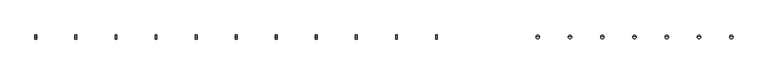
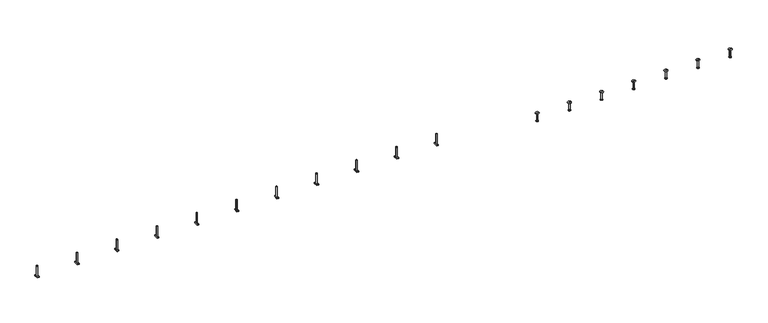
"""IFC4 building model written with IfcOpenShell, lengths in millimetres: fastener geometry, JTA-K JORDAHL® AnchorChannels : JTA-K L=6000 mm."""

from ifc_helpers import new_model, si_unit, frame, origin, place, context, project, spatial, polyline, circle_curve, source, transform, mapped, element, save
from ifc_brep_helpers import plane_surface, cylinder_surface, revolved_surface, advanced_brep


def fastener_ee6d43ff(model_context):
    return source(origin(), model_context, "Body", "AdvancedBrep", [
        advanced_brep(
        [(3468.8421053, -16.0, -3.0), (3468.8421053, -16.0, -11.0), (3468.8421053, 16.0, -11.0), (3468.8421053, 16.0, -3.0), (3454.8421053, -16.0, -3.0), (3454.8421053, 16.0, -3.0), (3454.8421053, 16.0, -11.0), (3454.8421053, -16.0, -11.0), (3466.8421053, 0.0, -3.0), (3456.8421053, 0.0, -3.0), (3456.8421053, 0.0, 77.0), (3466.8421053, 0.0, 77.0)],
        [
            (0, 1),
            (1, 2),
            (2, 3),
            (3, 0),
            (4, 5),
            (5, 6),
            (6, 7),
            (7, 4),
            (3, 5),
            (4, 0),
            (8, 9, circle_curve(frame((3461.8421053, 0.0, -3.0), z_axis=(0.0, 0.0, -1.0), x_axis=(1.0, 0.0, 0.0)), 5.0)),
            (9, 8, circle_curve(frame((3461.8421053, 0.0, -3.0), z_axis=(0.0, 0.0, -1.0), x_axis=(1.0, 0.0, 0.0)), 5.0)),
            (2, 6),
            (1, 7),
            (10, 11, circle_curve(frame((3461.8421053, 0.0, 77.0), z_axis=(0.0, 0.0, 1.0), x_axis=(1.0, 0.0, 0.0)), 5.0)),
            (11, 10, circle_curve(frame((3461.8421053, 0.0, 77.0), z_axis=(0.0, 0.0, 1.0), x_axis=(1.0, 0.0, 0.0)), 5.0)),
            (11, 8),
            (9, 10),
        ],
        [
            plane_surface(frame((3468.8421053, 16.0, -3.0), z_axis=(1.0, 0.0, 0.0), x_axis=(0.0, 1.0, 0.0))),
            plane_surface(frame((3454.8421053, 16.0, -3.0), z_axis=(-1.0, 0.0, 0.0), x_axis=(0.0, -1.0, 0.0))),
            plane_surface(frame((3468.8421053, -16.0, -3.0), z_axis=(0.0, 0.0, 1.0), x_axis=(-1.0, 0.0, 0.0))),
            plane_surface(frame((3468.8421053, 16.0, -3.0), z_axis=(0.0, 1.0, 0.0), x_axis=(-1.0, 0.0, 0.0))),
            plane_surface(frame((3468.8421053, 16.0, -11.0), z_axis=(0.0, 0.0, -1.0), x_axis=(-1.0, 0.0, 0.0))),
            plane_surface(frame((3468.8421053, -16.0, -11.0), z_axis=(0.0, -1.0, 0.0), x_axis=(-1.0, 0.0, 0.0))),
            plane_surface(frame((3466.8421053, 0.0, 77.0), z_axis=(0.0, 0.0, 1.0), x_axis=(0.0, -1.0, 0.0))),
            cylinder_surface(frame((3461.8421053, 0.0, -3.0), z_axis=(0.0, 0.0, 1.0), x_axis=(1.0, 0.0, 0.0)), 5.0),
        ],
        [
            (0, [[1, 2, 3, 4]]),
            (1, [[5, 6, 7, 8]]),
            (2, [[9, -5, 10, -4], [11, 12]]),
            (3, [[13, -6, -9, -3]]),
            (4, [[14, -7, -13, -2]]),
            (5, [[-10, -8, -14, -1]]),
            (6, [[15, 16]]),
            (7, [[17, -12, 18, -16]]),
            (7, [[-18, -11, -17, -15]]),
        ],
    ),
        advanced_brep(
        [(3160.9473684, -16.0, -3.0), (3160.9473684, -16.0, -11.0), (3160.9473684, 16.0, -11.0), (3160.9473684, 16.0, -3.0), (3146.9473684, -16.0, -3.0), (3146.9473684, 16.0, -3.0), (3146.9473684, 16.0, -11.0), (3146.9473684, -16.0, -11.0), (3158.9473684, 0.0, -3.0), (3148.9473684, 0.0, -3.0), (3148.9473684, 0.0, 77.0), (3158.9473684, 0.0, 77.0)],
        [
            (0, 1),
            (1, 2),
            (2, 3),
            (3, 0),
            (4, 5),
            (5, 6),
            (6, 7),
            (7, 4),
            (3, 5),
            (4, 0),
            (8, 9, circle_curve(frame((3153.9473684, 0.0, -3.0), z_axis=(0.0, 0.0, -1.0), x_axis=(1.0, 0.0, 0.0)), 5.0)),
            (9, 8, circle_curve(frame((3153.9473684, 0.0, -3.0), z_axis=(0.0, 0.0, -1.0), x_axis=(1.0, 0.0, 0.0)), 5.0)),
            (2, 6),
            (1, 7),
            (10, 11, circle_curve(frame((3153.9473684, 0.0, 77.0), z_axis=(0.0, 0.0, 1.0), x_axis=(1.0, 0.0, 0.0)), 5.0)),
            (11, 10, circle_curve(frame((3153.9473684, 0.0, 77.0), z_axis=(0.0, 0.0, 1.0), x_axis=(1.0, 0.0, 0.0)), 5.0)),
            (11, 8),
            (9, 10),
        ],
        [
            plane_surface(frame((3160.9473684, 16.0, -3.0), z_axis=(1.0, 0.0, 0.0), x_axis=(0.0, 1.0, 0.0))),
            plane_surface(frame((3146.9473684, 16.0, -3.0), z_axis=(-1.0, 0.0, 0.0), x_axis=(0.0, -1.0, 0.0))),
            plane_surface(frame((3160.9473684, -16.0, -3.0), z_axis=(0.0, 0.0, 1.0), x_axis=(-1.0, 0.0, 0.0))),
            plane_surface(frame((3160.9473684, 16.0, -3.0), z_axis=(0.0, 1.0, 0.0), x_axis=(-1.0, 0.0, 0.0))),
            plane_surface(frame((3160.9473684, 16.0, -11.0), z_axis=(0.0, 0.0, -1.0), x_axis=(-1.0, 0.0, 0.0))),
            plane_surface(frame((3160.9473684, -16.0, -11.0), z_axis=(0.0, -1.0, 0.0), x_axis=(-1.0, 0.0, 0.0))),
            plane_surface(frame((3158.9473684, 0.0, 77.0), z_axis=(0.0, 0.0, 1.0), x_axis=(0.0, -1.0, 0.0))),
            cylinder_surface(frame((3153.9473684, 0.0, -3.0), z_axis=(0.0, 0.0, 1.0), x_axis=(1.0, 0.0, 0.0)), 5.0),
        ],
        [
            (0, [[1, 2, 3, 4]]),
            (1, [[5, 6, 7, 8]]),
            (2, [[9, -5, 10, -4], [11, 12]]),
            (3, [[13, -6, -9, -3]]),
            (4, [[14, -7, -13, -2]]),
            (5, [[-10, -8, -14, -1]]),
            (6, [[15, 16]]),
            (7, [[17, -12, 18, -16]]),
            (7, [[-18, -11, -17, -15]]),
        ],
    ),
        advanced_brep(
        [(2853.0526316, -16.0, -3.0), (2853.0526316, -16.0, -11.0), (2853.0526316, 16.0, -11.0), (2853.0526316, 16.0, -3.0), (2839.0526316, -16.0, -3.0), (2839.0526316, 16.0, -3.0), (2839.0526316, 16.0, -11.0), (2839.0526316, -16.0, -11.0), (2851.0526316, 0.0, -3.0), (2841.0526316, 0.0, -3.0), (2841.0526316, 0.0, 77.0), (2851.0526316, 0.0, 77.0)],
        [
            (0, 1),
            (1, 2),
            (2, 3),
            (3, 0),
            (4, 5),
            (5, 6),
            (6, 7),
            (7, 4),
            (3, 5),
            (4, 0),
            (8, 9, circle_curve(frame((2846.0526316, 0.0, -3.0), z_axis=(0.0, 0.0, -1.0), x_axis=(1.0, 0.0, 0.0)), 5.0)),
            (9, 8, circle_curve(frame((2846.0526316, 0.0, -3.0), z_axis=(0.0, 0.0, -1.0), x_axis=(1.0, 0.0, 0.0)), 5.0)),
            (2, 6),
            (1, 7),
            (10, 11, circle_curve(frame((2846.0526316, 0.0, 77.0), z_axis=(0.0, 0.0, 1.0), x_axis=(1.0, 0.0, 0.0)), 5.0)),
            (11, 10, circle_curve(frame((2846.0526316, 0.0, 77.0), z_axis=(0.0, 0.0, 1.0), x_axis=(1.0, 0.0, 0.0)), 5.0)),
            (11, 8),
            (9, 10),
        ],
        [
            plane_surface(frame((2853.0526316, 16.0, -3.0), z_axis=(1.0, 0.0, 0.0), x_axis=(0.0, 1.0, 0.0))),
            plane_surface(frame((2839.0526316, 16.0, -3.0), z_axis=(-1.0, 0.0, 0.0), x_axis=(0.0, -1.0, 0.0))),
            plane_surface(frame((2853.0526316, -16.0, -3.0), z_axis=(0.0, 0.0, 1.0), x_axis=(-1.0, 0.0, 0.0))),
            plane_surface(frame((2853.0526316, 16.0, -3.0), z_axis=(0.0, 1.0, 0.0), x_axis=(-1.0, 0.0, 0.0))),
            plane_surface(frame((2853.0526316, 16.0, -11.0), z_axis=(0.0, 0.0, -1.0), x_axis=(-1.0, 0.0, 0.0))),
            plane_surface(frame((2853.0526316, -16.0, -11.0), z_axis=(0.0, -1.0, 0.0), x_axis=(-1.0, 0.0, 0.0))),
            plane_surface(frame((2851.0526316, 0.0, 77.0), z_axis=(0.0, 0.0, 1.0), x_axis=(0.0, -1.0, 0.0))),
            cylinder_surface(frame((2846.0526316, 0.0, -3.0), z_axis=(0.0, 0.0, 1.0), x_axis=(1.0, 0.0, 0.0)), 5.0),
        ],
        [
            (0, [[1, 2, 3, 4]]),
            (1, [[5, 6, 7, 8]]),
            (2, [[9, -5, 10, -4], [11, 12]]),
            (3, [[13, -6, -9, -3]]),
            (4, [[14, -7, -13, -2]]),
            (5, [[-10, -8, -14, -1]]),
            (6, [[15, 16]]),
            (7, [[17, -12, 18, -16]]),
            (7, [[-18, -11, -17, -15]]),
        ],
    ),
        advanced_brep(
        [(2545.1578947, -16.0, -3.0), (2545.1578947, -16.0, -11.0), (2545.1578947, 16.0, -11.0), (2545.1578947, 16.0, -3.0), (2531.1578947, -16.0, -3.0), (2531.1578947, 16.0, -3.0), (2531.1578947, 16.0, -11.0), (2531.1578947, -16.0, -11.0), (2543.1578947, 0.0, -3.0), (2533.1578947, 0.0, -3.0), (2533.1578947, 0.0, 77.0), (2543.1578947, 0.0, 77.0)],
        [
            (0, 1),
            (1, 2),
            (2, 3),
            (3, 0),
            (4, 5),
            (5, 6),
            (6, 7),
            (7, 4),
            (3, 5),
            (4, 0),
            (8, 9, circle_curve(frame((2538.1578947, 0.0, -3.0), z_axis=(0.0, 0.0, -1.0), x_axis=(1.0, 0.0, 0.0)), 5.0)),
            (9, 8, circle_curve(frame((2538.1578947, 0.0, -3.0), z_axis=(0.0, 0.0, -1.0), x_axis=(1.0, 0.0, 0.0)), 5.0)),
            (2, 6),
            (1, 7),
            (10, 11, circle_curve(frame((2538.1578947, 0.0, 77.0), z_axis=(0.0, 0.0, 1.0), x_axis=(1.0, 0.0, 0.0)), 5.0)),
            (11, 10, circle_curve(frame((2538.1578947, 0.0, 77.0), z_axis=(0.0, 0.0, 1.0), x_axis=(1.0, 0.0, 0.0)), 5.0)),
            (11, 8),
            (9, 10),
        ],
        [
            plane_surface(frame((2545.1578947, 16.0, -3.0), z_axis=(1.0, 0.0, 0.0), x_axis=(0.0, 1.0, 0.0))),
            plane_surface(frame((2531.1578947, 16.0, -3.0), z_axis=(-1.0, 0.0, 0.0), x_axis=(0.0, -1.0, 0.0))),
            plane_surface(frame((2545.1578947, -16.0, -3.0), z_axis=(0.0, 0.0, 1.0), x_axis=(-1.0, 0.0, 0.0))),
            plane_surface(frame((2545.1578947, 16.0, -3.0), z_axis=(0.0, 1.0, 0.0), x_axis=(-1.0, 0.0, 0.0))),
            plane_surface(frame((2545.1578947, 16.0, -11.0), z_axis=(0.0, 0.0, -1.0), x_axis=(-1.0, 0.0, 0.0))),
            plane_surface(frame((2545.1578947, -16.0, -11.0), z_axis=(0.0, -1.0, 0.0), x_axis=(-1.0, 0.0, 0.0))),
            plane_surface(frame((2543.1578947, 0.0, 77.0), z_axis=(0.0, 0.0, 1.0), x_axis=(0.0, -1.0, 0.0))),
            cylinder_surface(frame((2538.1578947, 0.0, -3.0), z_axis=(0.0, 0.0, 1.0), x_axis=(1.0, 0.0, 0.0)), 5.0),
        ],
        [
            (0, [[1, 2, 3, 4]]),
            (1, [[5, 6, 7, 8]]),
            (2, [[9, -5, 10, -4], [11, 12]]),
            (3, [[13, -6, -9, -3]]),
            (4, [[14, -7, -13, -2]]),
            (5, [[-10, -8, -14, -1]]),
            (6, [[15, 16]]),
            (7, [[17, -12, 18, -16]]),
            (7, [[-18, -11, -17, -15]]),
        ],
    ),
        advanced_brep(
        [(2237.2631579, -16.0, -3.0), (2237.2631579, -16.0, -11.0), (2237.2631579, 16.0, -11.0), (2237.2631579, 16.0, -3.0), (2223.2631579, -16.0, -3.0), (2223.2631579, 16.0, -3.0), (2223.2631579, 16.0, -11.0), (2223.2631579, -16.0, -11.0), (2235.2631579, 0.0, -3.0), (2225.2631579, 0.0, -3.0), (2225.2631579, 0.0, 77.0), (2235.2631579, 0.0, 77.0)],
        [
            (0, 1),
            (1, 2),
            (2, 3),
            (3, 0),
            (4, 5),
            (5, 6),
            (6, 7),
            (7, 4),
            (3, 5),
            (4, 0),
            (8, 9, circle_curve(frame((2230.2631579, 0.0, -3.0), z_axis=(0.0, 0.0, -1.0), x_axis=(1.0, 0.0, 0.0)), 5.0)),
            (9, 8, circle_curve(frame((2230.2631579, 0.0, -3.0), z_axis=(0.0, 0.0, -1.0), x_axis=(1.0, 0.0, 0.0)), 5.0)),
            (2, 6),
            (1, 7),
            (10, 11, circle_curve(frame((2230.2631579, 0.0, 77.0), z_axis=(0.0, 0.0, 1.0), x_axis=(1.0, 0.0, 0.0)), 5.0)),
            (11, 10, circle_curve(frame((2230.2631579, 0.0, 77.0), z_axis=(0.0, 0.0, 1.0), x_axis=(1.0, 0.0, 0.0)), 5.0)),
            (11, 8),
            (9, 10),
        ],
        [
            plane_surface(frame((2237.2631579, 16.0, -3.0), z_axis=(1.0, 0.0, 0.0), x_axis=(0.0, 1.0, 0.0))),
            plane_surface(frame((2223.2631579, 16.0, -3.0), z_axis=(-1.0, 0.0, 0.0), x_axis=(0.0, -1.0, 0.0))),
            plane_surface(frame((2237.2631579, -16.0, -3.0), z_axis=(0.0, 0.0, 1.0), x_axis=(-1.0, 0.0, 0.0))),
            plane_surface(frame((2237.2631579, 16.0, -3.0), z_axis=(0.0, 1.0, 0.0), x_axis=(-1.0, 0.0, 0.0))),
            plane_surface(frame((2237.2631579, 16.0, -11.0), z_axis=(0.0, 0.0, -1.0), x_axis=(-1.0, 0.0, 0.0))),
            plane_surface(frame((2237.2631579, -16.0, -11.0), z_axis=(0.0, -1.0, 0.0), x_axis=(-1.0, 0.0, 0.0))),
            plane_surface(frame((2235.2631579, 0.0, 77.0), z_axis=(0.0, 0.0, 1.0), x_axis=(0.0, -1.0, 0.0))),
            cylinder_surface(frame((2230.2631579, 0.0, -3.0), z_axis=(0.0, 0.0, 1.0), x_axis=(1.0, 0.0, 0.0)), 5.0),
        ],
        [
            (0, [[1, 2, 3, 4]]),
            (1, [[5, 6, 7, 8]]),
            (2, [[9, -5, 10, -4], [11, 12]]),
            (3, [[13, -6, -9, -3]]),
            (4, [[14, -7, -13, -2]]),
            (5, [[-10, -8, -14, -1]]),
            (6, [[15, 16]]),
            (7, [[17, -12, 18, -16]]),
            (7, [[-18, -11, -17, -15]]),
        ],
    ),
        advanced_brep(
        [(1929.3684211, -16.0, -3.0), (1929.3684211, -16.0, -11.0), (1929.3684211, 16.0, -11.0), (1929.3684211, 16.0, -3.0), (1915.3684211, -16.0, -3.0), (1915.3684211, 16.0, -3.0), (1915.3684211, 16.0, -11.0), (1915.3684211, -16.0, -11.0), (1927.3684211, 0.0, -3.0), (1917.3684211, 0.0, -3.0), (1917.3684211, 0.0, 77.0), (1927.3684211, 0.0, 77.0)],
        [
            (0, 1),
            (1, 2),
            (2, 3),
            (3, 0),
            (4, 5),
            (5, 6),
            (6, 7),
            (7, 4),
            (3, 5),
            (4, 0),
            (8, 9, circle_curve(frame((1922.3684211, 0.0, -3.0), z_axis=(0.0, 0.0, -1.0), x_axis=(1.0, 0.0, 0.0)), 5.0)),
            (9, 8, circle_curve(frame((1922.3684211, 0.0, -3.0), z_axis=(0.0, 0.0, -1.0), x_axis=(1.0, 0.0, 0.0)), 5.0)),
            (2, 6),
            (1, 7),
            (10, 11, circle_curve(frame((1922.3684211, 0.0, 77.0), z_axis=(0.0, 0.0, 1.0), x_axis=(1.0, 0.0, 0.0)), 5.0)),
            (11, 10, circle_curve(frame((1922.3684211, 0.0, 77.0), z_axis=(0.0, 0.0, 1.0), x_axis=(1.0, 0.0, 0.0)), 5.0)),
            (11, 8),
            (9, 10),
        ],
        [
            plane_surface(frame((1929.3684211, 16.0, -3.0), z_axis=(1.0, 0.0, 0.0), x_axis=(0.0, 1.0, 0.0))),
            plane_surface(frame((1915.3684211, 16.0, -3.0), z_axis=(-1.0, 0.0, 0.0), x_axis=(0.0, -1.0, 0.0))),
            plane_surface(frame((1929.3684211, -16.0, -3.0), z_axis=(0.0, 0.0, 1.0), x_axis=(-1.0, 0.0, 0.0))),
            plane_surface(frame((1929.3684211, 16.0, -3.0), z_axis=(0.0, 1.0, 0.0), x_axis=(-1.0, 0.0, 0.0))),
            plane_surface(frame((1929.3684211, 16.0, -11.0), z_axis=(0.0, 0.0, -1.0), x_axis=(-1.0, 0.0, 0.0))),
            plane_surface(frame((1929.3684211, -16.0, -11.0), z_axis=(0.0, -1.0, 0.0), x_axis=(-1.0, 0.0, 0.0))),
            plane_surface(frame((1927.3684211, 0.0, 77.0), z_axis=(0.0, 0.0, 1.0), x_axis=(0.0, -1.0, 0.0))),
            cylinder_surface(frame((1922.3684211, 0.0, -3.0), z_axis=(0.0, 0.0, 1.0), x_axis=(1.0, 0.0, 0.0)), 5.0),
        ],
        [
            (0, [[1, 2, 3, 4]]),
            (1, [[5, 6, 7, 8]]),
            (2, [[9, -5, 10, -4], [11, 12]]),
            (3, [[13, -6, -9, -3]]),
            (4, [[14, -7, -13, -2]]),
            (5, [[-10, -8, -14, -1]]),
            (6, [[15, 16]]),
            (7, [[17, -12, 18, -16]]),
            (7, [[-18, -11, -17, -15]]),
        ],
    ),
        advanced_brep(
        [(1621.4736842, -16.0, -3.0), (1621.4736842, -16.0, -11.0), (1621.4736842, 16.0, -11.0), (1621.4736842, 16.0, -3.0), (1607.4736842, -16.0, -3.0), (1607.4736842, 16.0, -3.0), (1607.4736842, 16.0, -11.0), (1607.4736842, -16.0, -11.0), (1619.4736842, 0.0, -3.0), (1609.4736842, 0.0, -3.0), (1609.4736842, 0.0, 77.0), (1619.4736842, 0.0, 77.0)],
        [
            (0, 1),
            (1, 2),
            (2, 3),
            (3, 0),
            (4, 5),
            (5, 6),
            (6, 7),
            (7, 4),
            (3, 5),
            (4, 0),
            (8, 9, circle_curve(frame((1614.4736842, 0.0, -3.0), z_axis=(0.0, 0.0, -1.0), x_axis=(1.0, 0.0, 0.0)), 5.0)),
            (9, 8, circle_curve(frame((1614.4736842, 0.0, -3.0), z_axis=(0.0, 0.0, -1.0), x_axis=(1.0, 0.0, 0.0)), 5.0)),
            (2, 6),
            (1, 7),
            (10, 11, circle_curve(frame((1614.4736842, 0.0, 77.0), z_axis=(0.0, 0.0, 1.0), x_axis=(1.0, 0.0, 0.0)), 5.0)),
            (11, 10, circle_curve(frame((1614.4736842, 0.0, 77.0), z_axis=(0.0, 0.0, 1.0), x_axis=(1.0, 0.0, 0.0)), 5.0)),
            (11, 8),
            (9, 10),
        ],
        [
            plane_surface(frame((1621.4736842, 16.0, -3.0), z_axis=(1.0, 0.0, 0.0), x_axis=(0.0, 1.0, 0.0))),
            plane_surface(frame((1607.4736842, 16.0, -3.0), z_axis=(-1.0, 0.0, 0.0), x_axis=(0.0, -1.0, 0.0))),
            plane_surface(frame((1621.4736842, -16.0, -3.0), z_axis=(0.0, 0.0, 1.0), x_axis=(-1.0, 0.0, 0.0))),
            plane_surface(frame((1621.4736842, 16.0, -3.0), z_axis=(0.0, 1.0, 0.0), x_axis=(-1.0, 0.0, 0.0))),
            plane_surface(frame((1621.4736842, 16.0, -11.0), z_axis=(0.0, 0.0, -1.0), x_axis=(-1.0, 0.0, 0.0))),
            plane_surface(frame((1621.4736842, -16.0, -11.0), z_axis=(0.0, -1.0, 0.0), x_axis=(-1.0, 0.0, 0.0))),
            plane_surface(frame((1619.4736842, 0.0, 77.0), z_axis=(0.0, 0.0, 1.0), x_axis=(0.0, -1.0, 0.0))),
            cylinder_surface(frame((1614.4736842, 0.0, -3.0), z_axis=(0.0, 0.0, 1.0), x_axis=(1.0, 0.0, 0.0)), 5.0),
        ],
        [
            (0, [[1, 2, 3, 4]]),
            (1, [[5, 6, 7, 8]]),
            (2, [[9, -5, 10, -4], [11, 12]]),
            (3, [[13, -6, -9, -3]]),
            (4, [[14, -7, -13, -2]]),
            (5, [[-10, -8, -14, -1]]),
            (6, [[15, 16]]),
            (7, [[17, -12, 18, -16]]),
            (7, [[-18, -11, -17, -15]]),
        ],
    ),
        advanced_brep(
        [(1313.5789474, -16.0, -3.0), (1313.5789474, -16.0, -11.0), (1313.5789474, 16.0, -11.0), (1313.5789474, 16.0, -3.0), (1299.5789474, -16.0, -3.0), (1299.5789474, 16.0, -3.0), (1299.5789474, 16.0, -11.0), (1299.5789474, -16.0, -11.0), (1311.5789474, 0.0, -3.0), (1301.5789474, 0.0, -3.0), (1301.5789474, 0.0, 77.0), (1311.5789474, 0.0, 77.0)],
        [
            (0, 1),
            (1, 2),
            (2, 3),
            (3, 0),
            (4, 5),
            (5, 6),
            (6, 7),
            (7, 4),
            (3, 5),
            (4, 0),
            (8, 9, circle_curve(frame((1306.5789474, 0.0, -3.0), z_axis=(0.0, 0.0, -1.0), x_axis=(1.0, 0.0, 0.0)), 5.0)),
            (9, 8, circle_curve(frame((1306.5789474, 0.0, -3.0), z_axis=(0.0, 0.0, -1.0), x_axis=(1.0, 0.0, 0.0)), 5.0)),
            (2, 6),
            (1, 7),
            (10, 11, circle_curve(frame((1306.5789474, 0.0, 77.0), z_axis=(0.0, 0.0, 1.0), x_axis=(1.0, 0.0, 0.0)), 5.0)),
            (11, 10, circle_curve(frame((1306.5789474, 0.0, 77.0), z_axis=(0.0, 0.0, 1.0), x_axis=(1.0, 0.0, 0.0)), 5.0)),
            (11, 8),
            (9, 10),
        ],
        [
            plane_surface(frame((1313.5789474, 16.0, -3.0), z_axis=(1.0, 0.0, 0.0), x_axis=(0.0, 1.0, 0.0))),
            plane_surface(frame((1299.5789474, 16.0, -3.0), z_axis=(-1.0, 0.0, 0.0), x_axis=(0.0, -1.0, 0.0))),
            plane_surface(frame((1313.5789474, -16.0, -3.0), z_axis=(0.0, 0.0, 1.0), x_axis=(-1.0, 0.0, 0.0))),
            plane_surface(frame((1313.5789474, 16.0, -3.0), z_axis=(0.0, 1.0, 0.0), x_axis=(-1.0, 0.0, 0.0))),
            plane_surface(frame((1313.5789474, 16.0, -11.0), z_axis=(0.0, 0.0, -1.0), x_axis=(-1.0, 0.0, 0.0))),
            plane_surface(frame((1313.5789474, -16.0, -11.0), z_axis=(0.0, -1.0, 0.0), x_axis=(-1.0, 0.0, 0.0))),
            plane_surface(frame((1311.5789474, 0.0, 77.0), z_axis=(0.0, 0.0, 1.0), x_axis=(0.0, -1.0, 0.0))),
            cylinder_surface(frame((1306.5789474, 0.0, -3.0), z_axis=(0.0, 0.0, 1.0), x_axis=(1.0, 0.0, 0.0)), 5.0),
        ],
        [
            (0, [[1, 2, 3, 4]]),
            (1, [[5, 6, 7, 8]]),
            (2, [[9, -5, 10, -4], [11, 12]]),
            (3, [[13, -6, -9, -3]]),
            (4, [[14, -7, -13, -2]]),
            (5, [[-10, -8, -14, -1]]),
            (6, [[15, 16]]),
            (7, [[17, -12, 18, -16]]),
            (7, [[-18, -11, -17, -15]]),
        ],
    ),
        advanced_brep(
        [(1005.6842105, -16.0, -3.0), (1005.6842105, -16.0, -11.0), (1005.6842105, 16.0, -11.0), (1005.6842105, 16.0, -3.0), (991.6842105, -16.0, -3.0), (991.6842105, 16.0, -3.0), (991.6842105, 16.0, -11.0), (991.6842105, -16.0, -11.0), (1003.6842105, 0.0, -3.0), (993.6842105, 0.0, -3.0), (993.6842105, 0.0, 77.0), (1003.6842105, 0.0, 77.0)],
        [
            (0, 1),
            (1, 2),
            (2, 3),
            (3, 0),
            (4, 5),
            (5, 6),
            (6, 7),
            (7, 4),
            (3, 5),
            (4, 0),
            (8, 9, circle_curve(frame((998.6842105, 0.0, -3.0), z_axis=(0.0, 0.0, -1.0), x_axis=(1.0, 0.0, 0.0)), 5.0)),
            (9, 8, circle_curve(frame((998.6842105, 0.0, -3.0), z_axis=(0.0, 0.0, -1.0), x_axis=(1.0, 0.0, 0.0)), 5.0)),
            (2, 6),
            (1, 7),
            (10, 11, circle_curve(frame((998.6842105, 0.0, 77.0), z_axis=(0.0, 0.0, 1.0), x_axis=(1.0, 0.0, 0.0)), 5.0)),
            (11, 10, circle_curve(frame((998.6842105, 0.0, 77.0), z_axis=(0.0, 0.0, 1.0), x_axis=(1.0, 0.0, 0.0)), 5.0)),
            (11, 8),
            (9, 10),
        ],
        [
            plane_surface(frame((1005.6842105, 16.0, -3.0), z_axis=(1.0, 0.0, 0.0), x_axis=(0.0, 1.0, 0.0))),
            plane_surface(frame((991.6842105, 16.0, -3.0), z_axis=(-1.0, 0.0, 0.0), x_axis=(0.0, -1.0, 0.0))),
            plane_surface(frame((1005.6842105, -16.0, -3.0), z_axis=(0.0, 0.0, 1.0), x_axis=(-1.0, 0.0, 0.0))),
            plane_surface(frame((1005.6842105, 16.0, -3.0), z_axis=(0.0, 1.0, 0.0), x_axis=(-1.0, 0.0, 0.0))),
            plane_surface(frame((1005.6842105, 16.0, -11.0), z_axis=(0.0, 0.0, -1.0), x_axis=(-1.0, 0.0, 0.0))),
            plane_surface(frame((1005.6842105, -16.0, -11.0), z_axis=(0.0, -1.0, 0.0), x_axis=(-1.0, 0.0, 0.0))),
            plane_surface(frame((1003.6842105, 0.0, 77.0), z_axis=(0.0, 0.0, 1.0), x_axis=(0.0, -1.0, 0.0))),
            cylinder_surface(frame((998.6842105, 0.0, -3.0), z_axis=(0.0, 0.0, 1.0), x_axis=(1.0, 0.0, 0.0)), 5.0),
        ],
        [
            (0, [[1, 2, 3, 4]]),
            (1, [[5, 6, 7, 8]]),
            (2, [[9, -5, 10, -4], [11, 12]]),
            (3, [[13, -6, -9, -3]]),
            (4, [[14, -7, -13, -2]]),
            (5, [[-10, -8, -14, -1]]),
            (6, [[15, 16]]),
            (7, [[17, -12, 18, -16]]),
            (7, [[-18, -11, -17, -15]]),
        ],
    ),
        advanced_brep(
        [(697.7894737, -16.0, -3.0), (697.7894737, -16.0, -11.0), (697.7894737, 16.0, -11.0), (697.7894737, 16.0, -3.0), (683.7894737, -16.0, -3.0), (683.7894737, 16.0, -3.0), (683.7894737, 16.0, -11.0), (683.7894737, -16.0, -11.0), (695.7894737, 0.0, -3.0), (685.7894737, 0.0, -3.0), (685.7894737, 0.0, 77.0), (695.7894737, 0.0, 77.0)],
        [
            (0, 1),
            (1, 2),
            (2, 3),
            (3, 0),
            (4, 5),
            (5, 6),
            (6, 7),
            (7, 4),
            (3, 5),
            (4, 0),
            (8, 9, circle_curve(frame((690.7894737, 0.0, -3.0), z_axis=(0.0, 0.0, -1.0), x_axis=(1.0, 0.0, 0.0)), 5.0)),
            (9, 8, circle_curve(frame((690.7894737, 0.0, -3.0), z_axis=(0.0, 0.0, -1.0), x_axis=(1.0, 0.0, 0.0)), 5.0)),
            (2, 6),
            (1, 7),
            (10, 11, circle_curve(frame((690.7894737, 0.0, 77.0), z_axis=(0.0, 0.0, 1.0), x_axis=(1.0, 0.0, 0.0)), 5.0)),
            (11, 10, circle_curve(frame((690.7894737, 0.0, 77.0), z_axis=(0.0, 0.0, 1.0), x_axis=(1.0, 0.0, 0.0)), 5.0)),
            (11, 8),
            (9, 10),
        ],
        [
            plane_surface(frame((697.7894737, 16.0, -3.0), z_axis=(1.0, 0.0, 0.0), x_axis=(0.0, 1.0, 0.0))),
            plane_surface(frame((683.7894737, 16.0, -3.0), z_axis=(-1.0, 0.0, 0.0), x_axis=(0.0, -1.0, 0.0))),
            plane_surface(frame((697.7894737, -16.0, -3.0), z_axis=(0.0, 0.0, 1.0), x_axis=(-1.0, 0.0, 0.0))),
            plane_surface(frame((697.7894737, 16.0, -3.0), z_axis=(0.0, 1.0, 0.0), x_axis=(-1.0, 0.0, 0.0))),
            plane_surface(frame((697.7894737, 16.0, -11.0), z_axis=(0.0, 0.0, -1.0), x_axis=(-1.0, 0.0, 0.0))),
            plane_surface(frame((697.7894737, -16.0, -11.0), z_axis=(0.0, -1.0, 0.0), x_axis=(-1.0, 0.0, 0.0))),
            plane_surface(frame((695.7894737, 0.0, 77.0), z_axis=(0.0, 0.0, 1.0), x_axis=(0.0, -1.0, 0.0))),
            cylinder_surface(frame((690.7894737, 0.0, -3.0), z_axis=(0.0, 0.0, 1.0), x_axis=(1.0, 0.0, 0.0)), 5.0),
        ],
        [
            (0, [[1, 2, 3, 4]]),
            (1, [[5, 6, 7, 8]]),
            (2, [[9, -5, 10, -4], [11, 12]]),
            (3, [[13, -6, -9, -3]]),
            (4, [[14, -7, -13, -2]]),
            (5, [[-10, -8, -14, -1]]),
            (6, [[15, 16]]),
            (7, [[17, -12, 18, -16]]),
            (7, [[-18, -11, -17, -15]]),
        ],
    ),
        advanced_brep(
        [(389.8947368, -16.0, -3.0), (389.8947368, -16.0, -11.0), (389.8947368, 16.0, -11.0), (389.8947368, 16.0, -3.0), (375.8947368, -16.0, -3.0), (375.8947368, 16.0, -3.0), (375.8947368, 16.0, -11.0), (375.8947368, -16.0, -11.0), (387.8947368, 0.0, -3.0), (377.8947368, 0.0, -3.0), (377.8947368, 0.0, 77.0), (387.8947368, 0.0, 77.0)],
        [
            (0, 1),
            (1, 2),
            (2, 3),
            (3, 0),
            (4, 5),
            (5, 6),
            (6, 7),
            (7, 4),
            (3, 5),
            (4, 0),
            (8, 9, circle_curve(frame((382.8947368, 0.0, -3.0), z_axis=(0.0, 0.0, -1.0), x_axis=(1.0, 0.0, 0.0)), 5.0)),
            (9, 8, circle_curve(frame((382.8947368, 0.0, -3.0), z_axis=(0.0, 0.0, -1.0), x_axis=(1.0, 0.0, 0.0)), 5.0)),
            (2, 6),
            (1, 7),
            (10, 11, circle_curve(frame((382.8947368, 0.0, 77.0), z_axis=(0.0, 0.0, 1.0), x_axis=(1.0, 0.0, 0.0)), 5.0)),
            (11, 10, circle_curve(frame((382.8947368, 0.0, 77.0), z_axis=(0.0, 0.0, 1.0), x_axis=(1.0, 0.0, 0.0)), 5.0)),
            (11, 8),
            (9, 10),
        ],
        [
            plane_surface(frame((389.8947368, 16.0, -3.0), z_axis=(1.0, 0.0, 0.0), x_axis=(0.0, 1.0, 0.0))),
            plane_surface(frame((375.8947368, 16.0, -3.0), z_axis=(-1.0, 0.0, 0.0), x_axis=(0.0, -1.0, 0.0))),
            plane_surface(frame((389.8947368, -16.0, -3.0), z_axis=(0.0, 0.0, 1.0), x_axis=(-1.0, 0.0, 0.0))),
            plane_surface(frame((389.8947368, 16.0, -3.0), z_axis=(0.0, 1.0, 0.0), x_axis=(-1.0, 0.0, 0.0))),
            plane_surface(frame((389.8947368, 16.0, -11.0), z_axis=(0.0, 0.0, -1.0), x_axis=(-1.0, 0.0, 0.0))),
            plane_surface(frame((389.8947368, -16.0, -11.0), z_axis=(0.0, -1.0, 0.0), x_axis=(-1.0, 0.0, 0.0))),
            plane_surface(frame((387.8947368, 0.0, 77.0), z_axis=(0.0, 0.0, 1.0), x_axis=(0.0, -1.0, 0.0))),
            cylinder_surface(frame((382.8947368, 0.0, -3.0), z_axis=(0.0, 0.0, 1.0), x_axis=(1.0, 0.0, 0.0)), 5.0),
        ],
        [
            (0, [[1, 2, 3, 4]]),
            (1, [[5, 6, 7, 8]]),
            (2, [[9, -5, 10, -4], [11, 12]]),
            (3, [[13, -6, -9, -3]]),
            (4, [[14, -7, -13, -2]]),
            (5, [[-10, -8, -14, -1]]),
            (6, [[15, 16]]),
            (7, [[17, -12, 18, -16]]),
            (7, [[-18, -11, -17, -15]]),
        ],
    ),
        advanced_brep(
        [(5727.0833333, 0.0, -25.0), (5713.5833333, 0.0, -25.0), (5740.5833333, 0.0, -25.0), (5718.5833333, 0.0, -90.0), (5727.0833333, 0.0, -90.0), (5735.5833333, 0.0, -90.0), (5718.5833333, 0.0, -88.0), (5735.5833333, 0.0, -88.0), (5722.5833333, 0.0, -85.6905989), (5731.5833333, 0.0, -85.6905989), (5722.5833333, 0.0, -27.5), (5731.5833333, 0.0, -27.5)],
        [
            (0, 1),
            (1, 2, circle_curve(frame((5727.0833333, 0.0, -25.0), z_axis=(0.0, 0.0, 1.0), x_axis=(1.0, 0.0, 0.0)), 13.5)),
            (2, 0),
            (2, 1, circle_curve(frame((5727.0833333, 0.0, -25.0), z_axis=(0.0, 0.0, 1.0), x_axis=(1.0, 0.0, 0.0)), 13.5)),
            (3, 4),
            (4, 5),
            (5, 3, circle_curve(frame((5727.0833333, 0.0, -90.0), z_axis=(0.0, 0.0, -1.0), x_axis=(1.0, 0.0, 0.0)), 8.5)),
            (3, 5, circle_curve(frame((5727.0833333, 0.0, -90.0), z_axis=(0.0, 0.0, -1.0), x_axis=(1.0, 0.0, 0.0)), 8.5)),
            (6, 3),
            (5, 7),
            (7, 6, circle_curve(frame((5727.0833333, 0.0, -88.0), z_axis=(0.0, 0.0, -1.0), x_axis=(1.0, 0.0, 0.0)), 8.5)),
            (6, 7, circle_curve(frame((5727.0833333, 0.0, -88.0), z_axis=(0.0, 0.0, -1.0), x_axis=(1.0, 0.0, 0.0)), 8.5)),
            (8, 6),
            (7, 9),
            (9, 8, circle_curve(frame((5727.0833333, 0.0, -85.6905989), z_axis=(0.0, 0.0, -1.0), x_axis=(1.0, 0.0, 0.0)), 4.5)),
            (8, 9, circle_curve(frame((5727.0833333, 0.0, -85.6905989), z_axis=(0.0, 0.0, -1.0), x_axis=(1.0, 0.0, 0.0)), 4.5)),
            (10, 8),
            (9, 11),
            (11, 10, circle_curve(frame((5727.0833333, 0.0, -27.5), z_axis=(0.0, 0.0, -1.0), x_axis=(1.0, 0.0, 0.0)), 4.5)),
            (10, 11, circle_curve(frame((5727.0833333, 0.0, -27.5), z_axis=(0.0, 0.0, -1.0), x_axis=(1.0, 0.0, 0.0)), 4.5)),
            (1, 10),
            (11, 2),
        ],
        [
            plane_surface(frame((5727.0833333, 0.0, -25.0), z_axis=(0.0, 0.0, 1.0), x_axis=(1.0, 0.0, 0.0))),
            plane_surface(frame((5727.0833333, 0.0, -90.0), z_axis=(0.0, 0.0, -1.0), x_axis=(1.0, 0.0, 0.0))),
            cylinder_surface(frame((5727.0833333, 0.0, 2279.3150031), z_axis=(0.0, 0.0, 1.0), x_axis=(1.0, 0.0, 0.0)), 8.5),
            revolved_surface(polyline([(5735.5833333, 0.0, -88.0), (5731.5833333, 0.0, -85.6905989)]), (5727.0833333, 0.0, 2279.3150031), (0.0, 0.0, 1.0)),
            cylinder_surface(frame((5727.0833333, 0.0, 2279.3150031), z_axis=(0.0, 0.0, 1.0), x_axis=(1.0, 0.0, 0.0)), 4.5),
            revolved_surface(polyline([(5731.5833333, 0.0, -27.5), (5740.5833333, 0.0, -25.0)]), (5727.0833333, 0.0, 2279.3150031), (0.0, 0.0, 1.0)),
        ],
        [
            (0, [[1, 2, 3]]),
            (0, [[-3, 4, -1]]),
            (1, [[5, 6, 7]]),
            (1, [[-6, -5, 8]]),
            (2, [[9, -7, 10, 11]]),
            (2, [[-10, -8, -9, 12]]),
            (3, [[13, -11, 14, 15]]),
            (3, [[-14, -12, -13, 16]]),
            (4, [[17, -15, 18, 19]]),
            (4, [[-18, -16, -17, 20]]),
            (5, [[21, -19, 22, -2]]),
            (5, [[-22, -20, -21, -4]]),
        ],
    ),
        advanced_brep(
        [(5479.1666667, 0.0, -25.0), (5465.6666667, 0.0, -25.0), (5492.6666667, 0.0, -25.0), (5470.6666667, 0.0, -90.0), (5479.1666667, 0.0, -90.0), (5487.6666667, 0.0, -90.0), (5470.6666667, 0.0, -88.0), (5487.6666667, 0.0, -88.0), (5474.6666667, 0.0, -85.6905989), (5483.6666667, 0.0, -85.6905989), (5474.6666667, 0.0, -27.5), (5483.6666667, 0.0, -27.5)],
        [
            (0, 1),
            (1, 2, circle_curve(frame((5479.1666667, 0.0, -25.0), z_axis=(0.0, 0.0, 1.0), x_axis=(1.0, 0.0, 0.0)), 13.5)),
            (2, 0),
            (2, 1, circle_curve(frame((5479.1666667, 0.0, -25.0), z_axis=(0.0, 0.0, 1.0), x_axis=(1.0, 0.0, 0.0)), 13.5)),
            (3, 4),
            (4, 5),
            (5, 3, circle_curve(frame((5479.1666667, 0.0, -90.0), z_axis=(0.0, 0.0, -1.0), x_axis=(1.0, 0.0, 0.0)), 8.5)),
            (3, 5, circle_curve(frame((5479.1666667, 0.0, -90.0), z_axis=(0.0, 0.0, -1.0), x_axis=(1.0, 0.0, 0.0)), 8.5)),
            (6, 3),
            (5, 7),
            (7, 6, circle_curve(frame((5479.1666667, 0.0, -88.0), z_axis=(0.0, 0.0, -1.0), x_axis=(1.0, 0.0, 0.0)), 8.5)),
            (6, 7, circle_curve(frame((5479.1666667, 0.0, -88.0), z_axis=(0.0, 0.0, -1.0), x_axis=(1.0, 0.0, 0.0)), 8.5)),
            (8, 6),
            (7, 9),
            (9, 8, circle_curve(frame((5479.1666667, 0.0, -85.6905989), z_axis=(0.0, 0.0, -1.0), x_axis=(1.0, 0.0, 0.0)), 4.5)),
            (8, 9, circle_curve(frame((5479.1666667, 0.0, -85.6905989), z_axis=(0.0, 0.0, -1.0), x_axis=(1.0, 0.0, 0.0)), 4.5)),
            (10, 8),
            (9, 11),
            (11, 10, circle_curve(frame((5479.1666667, 0.0, -27.5), z_axis=(0.0, 0.0, -1.0), x_axis=(1.0, 0.0, 0.0)), 4.5)),
            (10, 11, circle_curve(frame((5479.1666667, 0.0, -27.5), z_axis=(0.0, 0.0, -1.0), x_axis=(1.0, 0.0, 0.0)), 4.5)),
            (1, 10),
            (11, 2),
        ],
        [
            plane_surface(frame((5479.1666667, 0.0, -25.0), z_axis=(0.0, 0.0, 1.0), x_axis=(1.0, 0.0, 0.0))),
            plane_surface(frame((5479.1666667, 0.0, -90.0), z_axis=(0.0, 0.0, -1.0), x_axis=(1.0, 0.0, 0.0))),
            cylinder_surface(frame((5479.1666667, 0.0, 2279.3150031), z_axis=(0.0, 0.0, 1.0), x_axis=(1.0, 0.0, 0.0)), 8.5),
            revolved_surface(polyline([(5487.6666667, 0.0, -88.0), (5483.6666667, 0.0, -85.6905989)]), (5479.1666667, 0.0, 2279.3150031), (0.0, 0.0, 1.0)),
            cylinder_surface(frame((5479.1666667, 0.0, 2279.3150031), z_axis=(0.0, 0.0, 1.0), x_axis=(1.0, 0.0, 0.0)), 4.5),
            revolved_surface(polyline([(5483.6666667, 0.0, -27.5), (5492.6666667, 0.0, -25.0)]), (5479.1666667, 0.0, 2279.3150031), (0.0, 0.0, 1.0)),
        ],
        [
            (0, [[1, 2, 3]]),
            (0, [[-3, 4, -1]]),
            (1, [[5, 6, 7]]),
            (1, [[-6, -5, 8]]),
            (2, [[9, -7, 10, 11]]),
            (2, [[-10, -8, -9, 12]]),
            (3, [[13, -11, 14, 15]]),
            (3, [[-14, -12, -13, 16]]),
            (4, [[17, -15, 18, 19]]),
            (4, [[-18, -16, -17, 20]]),
            (5, [[21, -19, 22, -2]]),
            (5, [[-22, -20, -21, -4]]),
        ],
    ),
        advanced_brep(
        [(5231.25, 0.0, -25.0), (5217.75, 0.0, -25.0), (5244.75, 0.0, -25.0), (5222.75, 0.0, -90.0), (5231.25, 0.0, -90.0), (5239.75, 0.0, -90.0), (5222.75, 0.0, -88.0), (5239.75, 0.0, -88.0), (5226.75, 0.0, -85.6905989), (5235.75, 0.0, -85.6905989), (5226.75, 0.0, -27.5), (5235.75, 0.0, -27.5)],
        [
            (0, 1),
            (1, 2, circle_curve(frame((5231.25, 0.0, -25.0), z_axis=(0.0, 0.0, 1.0), x_axis=(1.0, 0.0, 0.0)), 13.5)),
            (2, 0),
            (2, 1, circle_curve(frame((5231.25, 0.0, -25.0), z_axis=(0.0, 0.0, 1.0), x_axis=(1.0, 0.0, 0.0)), 13.5)),
            (3, 4),
            (4, 5),
            (5, 3, circle_curve(frame((5231.25, 0.0, -90.0), z_axis=(0.0, 0.0, -1.0), x_axis=(1.0, 0.0, 0.0)), 8.5)),
            (3, 5, circle_curve(frame((5231.25, 0.0, -90.0), z_axis=(0.0, 0.0, -1.0), x_axis=(1.0, 0.0, 0.0)), 8.5)),
            (6, 3),
            (5, 7),
            (7, 6, circle_curve(frame((5231.25, 0.0, -88.0), z_axis=(0.0, 0.0, -1.0), x_axis=(1.0, 0.0, 0.0)), 8.5)),
            (6, 7, circle_curve(frame((5231.25, 0.0, -88.0), z_axis=(0.0, 0.0, -1.0), x_axis=(1.0, 0.0, 0.0)), 8.5)),
            (8, 6),
            (7, 9),
            (9, 8, circle_curve(frame((5231.25, 0.0, -85.6905989), z_axis=(0.0, 0.0, -1.0), x_axis=(1.0, 0.0, 0.0)), 4.5)),
            (8, 9, circle_curve(frame((5231.25, 0.0, -85.6905989), z_axis=(0.0, 0.0, -1.0), x_axis=(1.0, 0.0, 0.0)), 4.5)),
            (10, 8),
            (9, 11),
            (11, 10, circle_curve(frame((5231.25, 0.0, -27.5), z_axis=(0.0, 0.0, -1.0), x_axis=(1.0, 0.0, 0.0)), 4.5)),
            (10, 11, circle_curve(frame((5231.25, 0.0, -27.5), z_axis=(0.0, 0.0, -1.0), x_axis=(1.0, 0.0, 0.0)), 4.5)),
            (1, 10),
            (11, 2),
        ],
        [
            plane_surface(frame((5231.25, 0.0, -25.0), z_axis=(0.0, 0.0, 1.0), x_axis=(1.0, 0.0, 0.0))),
            plane_surface(frame((5231.25, 0.0, -90.0), z_axis=(0.0, 0.0, -1.0), x_axis=(1.0, 0.0, 0.0))),
            cylinder_surface(frame((5231.25, 0.0, 2279.3150031), z_axis=(0.0, 0.0, 1.0), x_axis=(1.0, 0.0, 0.0)), 8.5),
            revolved_surface(polyline([(5239.75, 0.0, -88.0), (5235.75, 0.0, -85.6905989)]), (5231.25, 0.0, 2279.3150031), (0.0, 0.0, 1.0)),
            cylinder_surface(frame((5231.25, 0.0, 2279.3150031), z_axis=(0.0, 0.0, 1.0), x_axis=(1.0, 0.0, 0.0)), 4.5),
            revolved_surface(polyline([(5235.75, 0.0, -27.5), (5244.75, 0.0, -25.0)]), (5231.25, 0.0, 2279.3150031), (0.0, 0.0, 1.0)),
        ],
        [
            (0, [[1, 2, 3]]),
            (0, [[-3, 4, -1]]),
            (1, [[5, 6, 7]]),
            (1, [[-6, -5, 8]]),
            (2, [[9, -7, 10, 11]]),
            (2, [[-10, -8, -9, 12]]),
            (3, [[13, -11, 14, 15]]),
            (3, [[-14, -12, -13, 16]]),
            (4, [[17, -15, 18, 19]]),
            (4, [[-18, -16, -17, 20]]),
            (5, [[21, -19, 22, -2]]),
            (5, [[-22, -20, -21, -4]]),
        ],
    ),
        advanced_brep(
        [(4983.3333333, 0.0, -25.0), (4969.8333333, 0.0, -25.0), (4996.8333333, 0.0, -25.0), (4974.8333333, 0.0, -90.0), (4983.3333333, 0.0, -90.0), (4991.8333333, 0.0, -90.0), (4974.8333333, 0.0, -88.0), (4991.8333333, 0.0, -88.0), (4978.8333333, 0.0, -85.6905989), (4987.8333333, 0.0, -85.6905989), (4978.8333333, 0.0, -27.5), (4987.8333333, 0.0, -27.5)],
        [
            (0, 1),
            (1, 2, circle_curve(frame((4983.3333333, 0.0, -25.0), z_axis=(0.0, 0.0, 1.0), x_axis=(1.0, 0.0, 0.0)), 13.5)),
            (2, 0),
            (2, 1, circle_curve(frame((4983.3333333, 0.0, -25.0), z_axis=(0.0, 0.0, 1.0), x_axis=(1.0, 0.0, 0.0)), 13.5)),
            (3, 4),
            (4, 5),
            (5, 3, circle_curve(frame((4983.3333333, 0.0, -90.0), z_axis=(0.0, 0.0, -1.0), x_axis=(1.0, 0.0, 0.0)), 8.5)),
            (3, 5, circle_curve(frame((4983.3333333, 0.0, -90.0), z_axis=(0.0, 0.0, -1.0), x_axis=(1.0, 0.0, 0.0)), 8.5)),
            (6, 3),
            (5, 7),
            (7, 6, circle_curve(frame((4983.3333333, 0.0, -88.0), z_axis=(0.0, 0.0, -1.0), x_axis=(1.0, 0.0, 0.0)), 8.5)),
            (6, 7, circle_curve(frame((4983.3333333, 0.0, -88.0), z_axis=(0.0, 0.0, -1.0), x_axis=(1.0, 0.0, 0.0)), 8.5)),
            (8, 6),
            (7, 9),
            (9, 8, circle_curve(frame((4983.3333333, 0.0, -85.6905989), z_axis=(0.0, 0.0, -1.0), x_axis=(1.0, 0.0, 0.0)), 4.5)),
            (8, 9, circle_curve(frame((4983.3333333, 0.0, -85.6905989), z_axis=(0.0, 0.0, -1.0), x_axis=(1.0, 0.0, 0.0)), 4.5)),
            (10, 8),
            (9, 11),
            (11, 10, circle_curve(frame((4983.3333333, 0.0, -27.5), z_axis=(0.0, 0.0, -1.0), x_axis=(1.0, 0.0, 0.0)), 4.5)),
            (10, 11, circle_curve(frame((4983.3333333, 0.0, -27.5), z_axis=(0.0, 0.0, -1.0), x_axis=(1.0, 0.0, 0.0)), 4.5)),
            (1, 10),
            (11, 2),
        ],
        [
            plane_surface(frame((4983.3333333, 0.0, -25.0), z_axis=(0.0, 0.0, 1.0), x_axis=(1.0, 0.0, 0.0))),
            plane_surface(frame((4983.3333333, 0.0, -90.0), z_axis=(0.0, 0.0, -1.0), x_axis=(1.0, 0.0, 0.0))),
            cylinder_surface(frame((4983.3333333, 0.0, 2279.3150031), z_axis=(0.0, 0.0, 1.0), x_axis=(1.0, 0.0, 0.0)), 8.5),
            revolved_surface(polyline([(4991.8333333, 0.0, -88.0), (4987.8333333, 0.0, -85.6905989)]), (4983.3333333, 0.0, 2279.3150031), (0.0, 0.0, 1.0)),
            cylinder_surface(frame((4983.3333333, 0.0, 2279.3150031), z_axis=(0.0, 0.0, 1.0), x_axis=(1.0, 0.0, 0.0)), 4.5),
            revolved_surface(polyline([(4987.8333333, 0.0, -27.5), (4996.8333333, 0.0, -25.0)]), (4983.3333333, 0.0, 2279.3150031), (0.0, 0.0, 1.0)),
        ],
        [
            (0, [[1, 2, 3]]),
            (0, [[-3, 4, -1]]),
            (1, [[5, 6, 7]]),
            (1, [[-6, -5, 8]]),
            (2, [[9, -7, 10, 11]]),
            (2, [[-10, -8, -9, 12]]),
            (3, [[13, -11, 14, 15]]),
            (3, [[-14, -12, -13, 16]]),
            (4, [[17, -15, 18, 19]]),
            (4, [[-18, -16, -17, 20]]),
            (5, [[21, -19, 22, -2]]),
            (5, [[-22, -20, -21, -4]]),
        ],
    ),
        advanced_brep(
        [(4735.4166667, 0.0, -25.0), (4721.9166667, 0.0, -25.0), (4748.9166667, 0.0, -25.0), (4726.9166667, 0.0, -90.0), (4735.4166667, 0.0, -90.0), (4743.9166667, 0.0, -90.0), (4726.9166667, 0.0, -88.0), (4743.9166667, 0.0, -88.0), (4730.9166667, 0.0, -85.6905989), (4739.9166667, 0.0, -85.6905989), (4730.9166667, 0.0, -27.5), (4739.9166667, 0.0, -27.5)],
        [
            (0, 1),
            (1, 2, circle_curve(frame((4735.4166667, 0.0, -25.0), z_axis=(0.0, 0.0, 1.0), x_axis=(1.0, 0.0, 0.0)), 13.5)),
            (2, 0),
            (2, 1, circle_curve(frame((4735.4166667, 0.0, -25.0), z_axis=(0.0, 0.0, 1.0), x_axis=(1.0, 0.0, 0.0)), 13.5)),
            (3, 4),
            (4, 5),
            (5, 3, circle_curve(frame((4735.4166667, 0.0, -90.0), z_axis=(0.0, 0.0, -1.0), x_axis=(1.0, 0.0, 0.0)), 8.5)),
            (3, 5, circle_curve(frame((4735.4166667, 0.0, -90.0), z_axis=(0.0, 0.0, -1.0), x_axis=(1.0, 0.0, 0.0)), 8.5)),
            (6, 3),
            (5, 7),
            (7, 6, circle_curve(frame((4735.4166667, 0.0, -88.0), z_axis=(0.0, 0.0, -1.0), x_axis=(1.0, 0.0, 0.0)), 8.5)),
            (6, 7, circle_curve(frame((4735.4166667, 0.0, -88.0), z_axis=(0.0, 0.0, -1.0), x_axis=(1.0, 0.0, 0.0)), 8.5)),
            (8, 6),
            (7, 9),
            (9, 8, circle_curve(frame((4735.4166667, 0.0, -85.6905989), z_axis=(0.0, 0.0, -1.0), x_axis=(1.0, 0.0, 0.0)), 4.5)),
            (8, 9, circle_curve(frame((4735.4166667, 0.0, -85.6905989), z_axis=(0.0, 0.0, -1.0), x_axis=(1.0, 0.0, 0.0)), 4.5)),
            (10, 8),
            (9, 11),
            (11, 10, circle_curve(frame((4735.4166667, 0.0, -27.5), z_axis=(0.0, 0.0, -1.0), x_axis=(1.0, 0.0, 0.0)), 4.5)),
            (10, 11, circle_curve(frame((4735.4166667, 0.0, -27.5), z_axis=(0.0, 0.0, -1.0), x_axis=(1.0, 0.0, 0.0)), 4.5)),
            (1, 10),
            (11, 2),
        ],
        [
            plane_surface(frame((4735.4166667, 0.0, -25.0), z_axis=(0.0, 0.0, 1.0), x_axis=(1.0, 0.0, 0.0))),
            plane_surface(frame((4735.4166667, 0.0, -90.0), z_axis=(0.0, 0.0, -1.0), x_axis=(1.0, 0.0, 0.0))),
            cylinder_surface(frame((4735.4166667, 0.0, 2279.3150031), z_axis=(0.0, 0.0, 1.0), x_axis=(1.0, 0.0, 0.0)), 8.5),
            revolved_surface(polyline([(4743.9166667, 0.0, -88.0), (4739.9166667, 0.0, -85.6905989)]), (4735.4166667, 0.0, 2279.3150031), (0.0, 0.0, 1.0)),
            cylinder_surface(frame((4735.4166667, 0.0, 2279.3150031), z_axis=(0.0, 0.0, 1.0), x_axis=(1.0, 0.0, 0.0)), 4.5),
            revolved_surface(polyline([(4739.9166667, 0.0, -27.5), (4748.9166667, 0.0, -25.0)]), (4735.4166667, 0.0, 2279.3150031), (0.0, 0.0, 1.0)),
        ],
        [
            (0, [[1, 2, 3]]),
            (0, [[-3, 4, -1]]),
            (1, [[5, 6, 7]]),
            (1, [[-6, -5, 8]]),
            (2, [[9, -7, 10, 11]]),
            (2, [[-10, -8, -9, 12]]),
            (3, [[13, -11, 14, 15]]),
            (3, [[-14, -12, -13, 16]]),
            (4, [[17, -15, 18, 19]]),
            (4, [[-18, -16, -17, 20]]),
            (5, [[21, -19, 22, -2]]),
            (5, [[-22, -20, -21, -4]]),
        ],
    ),
        advanced_brep(
        [(4487.5, 0.0, -25.0), (4474.0, 0.0, -25.0), (4501.0, 0.0, -25.0), (4479.0, 0.0, -90.0), (4487.5, 0.0, -90.0), (4496.0, 0.0, -90.0), (4479.0, 0.0, -88.0), (4496.0, 0.0, -88.0), (4483.0, 0.0, -85.6905989), (4492.0, 0.0, -85.6905989), (4483.0, 0.0, -27.5), (4492.0, 0.0, -27.5)],
        [
            (0, 1),
            (1, 2, circle_curve(frame((4487.5, 0.0, -25.0), z_axis=(0.0, 0.0, 1.0), x_axis=(1.0, 0.0, 0.0)), 13.5)),
            (2, 0),
            (2, 1, circle_curve(frame((4487.5, 0.0, -25.0), z_axis=(0.0, 0.0, 1.0), x_axis=(1.0, 0.0, 0.0)), 13.5)),
            (3, 4),
            (4, 5),
            (5, 3, circle_curve(frame((4487.5, 0.0, -90.0), z_axis=(0.0, 0.0, -1.0), x_axis=(1.0, 0.0, 0.0)), 8.5)),
            (3, 5, circle_curve(frame((4487.5, 0.0, -90.0), z_axis=(0.0, 0.0, -1.0), x_axis=(1.0, 0.0, 0.0)), 8.5)),
            (6, 3),
            (5, 7),
            (7, 6, circle_curve(frame((4487.5, 0.0, -88.0), z_axis=(0.0, 0.0, -1.0), x_axis=(1.0, 0.0, 0.0)), 8.5)),
            (6, 7, circle_curve(frame((4487.5, 0.0, -88.0), z_axis=(0.0, 0.0, -1.0), x_axis=(1.0, 0.0, 0.0)), 8.5)),
            (8, 6),
            (7, 9),
            (9, 8, circle_curve(frame((4487.5, 0.0, -85.6905989), z_axis=(0.0, 0.0, -1.0), x_axis=(1.0, 0.0, 0.0)), 4.5)),
            (8, 9, circle_curve(frame((4487.5, 0.0, -85.6905989), z_axis=(0.0, 0.0, -1.0), x_axis=(1.0, 0.0, 0.0)), 4.5)),
            (10, 8),
            (9, 11),
            (11, 10, circle_curve(frame((4487.5, 0.0, -27.5), z_axis=(0.0, 0.0, -1.0), x_axis=(1.0, 0.0, 0.0)), 4.5)),
            (10, 11, circle_curve(frame((4487.5, 0.0, -27.5), z_axis=(0.0, 0.0, -1.0), x_axis=(1.0, 0.0, 0.0)), 4.5)),
            (1, 10),
            (11, 2),
        ],
        [
            plane_surface(frame((4487.5, 0.0, -25.0), z_axis=(0.0, 0.0, 1.0), x_axis=(1.0, 0.0, 0.0))),
            plane_surface(frame((4487.5, 0.0, -90.0), z_axis=(0.0, 0.0, -1.0), x_axis=(1.0, 0.0, 0.0))),
            cylinder_surface(frame((4487.5, 0.0, 2279.3150031), z_axis=(0.0, 0.0, 1.0), x_axis=(1.0, 0.0, 0.0)), 8.5),
            revolved_surface(polyline([(4496.0, 0.0, -88.0), (4492.0, 0.0, -85.6905989)]), (4487.5, 0.0, 2279.3150031), (0.0, 0.0, 1.0)),
            cylinder_surface(frame((4487.5, 0.0, 2279.3150031), z_axis=(0.0, 0.0, 1.0), x_axis=(1.0, 0.0, 0.0)), 4.5),
            revolved_surface(polyline([(4492.0, 0.0, -27.5), (4501.0, 0.0, -25.0)]), (4487.5, 0.0, 2279.3150031), (0.0, 0.0, 1.0)),
        ],
        [
            (0, [[1, 2, 3]]),
            (0, [[-3, 4, -1]]),
            (1, [[5, 6, 7]]),
            (1, [[-6, -5, 8]]),
            (2, [[9, -7, 10, 11]]),
            (2, [[-10, -8, -9, 12]]),
            (3, [[13, -11, 14, 15]]),
            (3, [[-14, -12, -13, 16]]),
            (4, [[17, -15, 18, 19]]),
            (4, [[-18, -16, -17, 20]]),
            (5, [[21, -19, 22, -2]]),
            (5, [[-22, -20, -21, -4]]),
        ],
    ),
        advanced_brep(
        [(4239.5833333, 0.0, -25.0), (4226.0833333, 0.0, -25.0), (4253.0833333, 0.0, -25.0), (4231.0833333, 0.0, -90.0), (4239.5833333, 0.0, -90.0), (4248.0833333, 0.0, -90.0), (4231.0833333, 0.0, -88.0), (4248.0833333, 0.0, -88.0), (4235.0833333, 0.0, -85.6905989), (4244.0833333, 0.0, -85.6905989), (4235.0833333, 0.0, -27.5), (4244.0833333, 0.0, -27.5)],
        [
            (0, 1),
            (1, 2, circle_curve(frame((4239.5833333, 0.0, -25.0), z_axis=(0.0, 0.0, 1.0), x_axis=(1.0, 0.0, 0.0)), 13.5)),
            (2, 0),
            (2, 1, circle_curve(frame((4239.5833333, 0.0, -25.0), z_axis=(0.0, 0.0, 1.0), x_axis=(1.0, 0.0, 0.0)), 13.5)),
            (3, 4),
            (4, 5),
            (5, 3, circle_curve(frame((4239.5833333, 0.0, -90.0), z_axis=(0.0, 0.0, -1.0), x_axis=(1.0, 0.0, 0.0)), 8.5)),
            (3, 5, circle_curve(frame((4239.5833333, 0.0, -90.0), z_axis=(0.0, 0.0, -1.0), x_axis=(1.0, 0.0, 0.0)), 8.5)),
            (6, 3),
            (5, 7),
            (7, 6, circle_curve(frame((4239.5833333, 0.0, -88.0), z_axis=(0.0, 0.0, -1.0), x_axis=(1.0, 0.0, 0.0)), 8.5)),
            (6, 7, circle_curve(frame((4239.5833333, 0.0, -88.0), z_axis=(0.0, 0.0, -1.0), x_axis=(1.0, 0.0, 0.0)), 8.5)),
            (8, 6),
            (7, 9),
            (9, 8, circle_curve(frame((4239.5833333, 0.0, -85.6905989), z_axis=(0.0, 0.0, -1.0), x_axis=(1.0, 0.0, 0.0)), 4.5)),
            (8, 9, circle_curve(frame((4239.5833333, 0.0, -85.6905989), z_axis=(0.0, 0.0, -1.0), x_axis=(1.0, 0.0, 0.0)), 4.5)),
            (10, 8),
            (9, 11),
            (11, 10, circle_curve(frame((4239.5833333, 0.0, -27.5), z_axis=(0.0, 0.0, -1.0), x_axis=(1.0, 0.0, 0.0)), 4.5)),
            (10, 11, circle_curve(frame((4239.5833333, 0.0, -27.5), z_axis=(0.0, 0.0, -1.0), x_axis=(1.0, 0.0, 0.0)), 4.5)),
            (1, 10),
            (11, 2),
        ],
        [
            plane_surface(frame((4239.5833333, 0.0, -25.0), z_axis=(0.0, 0.0, 1.0), x_axis=(1.0, 0.0, 0.0))),
            plane_surface(frame((4239.5833333, 0.0, -90.0), z_axis=(0.0, 0.0, -1.0), x_axis=(1.0, 0.0, 0.0))),
            cylinder_surface(frame((4239.5833333, 0.0, 2279.3150031), z_axis=(0.0, 0.0, 1.0), x_axis=(1.0, 0.0, 0.0)), 8.5),
            revolved_surface(polyline([(4248.0833333, 0.0, -88.0), (4244.0833333, 0.0, -85.6905989)]), (4239.5833333, 0.0, 2279.3150031), (0.0, 0.0, 1.0)),
            cylinder_surface(frame((4239.5833333, 0.0, 2279.3150031), z_axis=(0.0, 0.0, 1.0), x_axis=(1.0, 0.0, 0.0)), 4.5),
            revolved_surface(polyline([(4244.0833333, 0.0, -27.5), (4253.0833333, 0.0, -25.0)]), (4239.5833333, 0.0, 2279.3150031), (0.0, 0.0, 1.0)),
        ],
        [
            (0, [[1, 2, 3]]),
            (0, [[-3, 4, -1]]),
            (1, [[5, 6, 7]]),
            (1, [[-6, -5, 8]]),
            (2, [[9, -7, 10, 11]]),
            (2, [[-10, -8, -9, 12]]),
            (3, [[13, -11, 14, 15]]),
            (3, [[-14, -12, -13, 16]]),
            (4, [[17, -15, 18, 19]]),
            (4, [[-18, -16, -17, 20]]),
            (5, [[21, -19, 22, -2]]),
            (5, [[-22, -20, -21, -4]]),
        ],
    ),
    ])


if __name__ == "__main__":
    model = new_model("IFC4")
    model_context = context("Model", 3, world=origin())
    ifc_project = project(units=[si_unit("LENGTHUNIT", "METRE", prefix="MILLI")], contexts=[model_context])
    site = spatial("IfcSite", under=ifc_project)
    building = spatial("IfcBuilding", under=site)
    placement = place(None, origin())
    fastener_shape = fastener_ee6d43ff(model_context)
    element("IfcFastener", 1, ObjectType="JTA-K JORDAHL® AnchorChannels : JTA-K L=6000 mm", at=placement, inside=building, context=model_context, shape_type="MappedRepresentation", body=[
        mapped(fastener_shape, transform((0.0, 0.0, 0.0), x_axis=(1.0, 0.0, 0.0), y_axis=(0.0, 1.0, 0.0), z_axis=(0.0, 0.0, 1.0))),
    ])
    save(model, "model.ifc")
